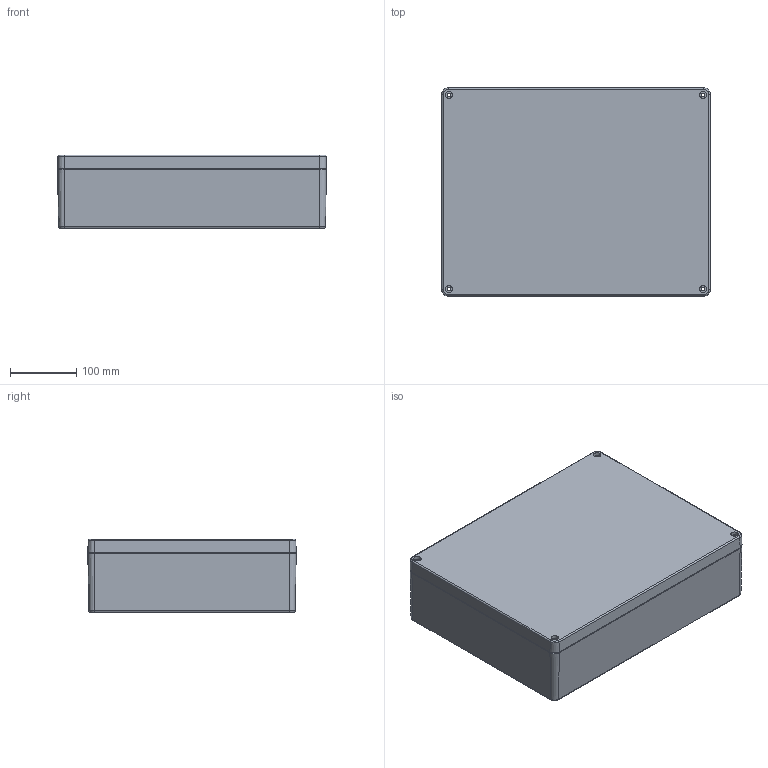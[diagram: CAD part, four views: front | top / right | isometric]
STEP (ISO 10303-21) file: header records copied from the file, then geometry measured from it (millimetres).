
FILE_DESCRIPTION (( 'STEP AP203' ), '1' );
FILE_NAME ('ALU ASSY 400310110.STEP', '2024-08-27T11:06:36', ( '' ), ( '' ), 'SwSTEP 2.0', 'SolidWorks 2018', '' );
FILE_SCHEMA (( 'CONFIG_CONTROL_DESIGN' ));
Length unit declared in the file: millimetre
Products named in the file (3): ALU LID 400310110; ALU BASE 400310110; ALU ASSY 400310110
Assembly tree (2 placements, depth 2):
  ALU ASSY 400310110
    ALU BASE 400310110
    ALU LID 400310110
Bounding box: 404.61 x 313.61 x 111 mm (x, y, z)
Volume: 2096070.3 mm3; surface area: 830071.9 mm2
Topology: 2 solids, 2 shells, 1068 faces, 2695 edges, 1730 vertices
Faces by surface type: plane 449, bspline 221, cone 175, cylinder 172, torus 51
Entity records: 46351 total; most frequent: CARTESIAN_POINT 21485, ORIENTED_EDGE 5370, DIRECTION 4540, EDGE_CURVE 2685, VERTEX_POINT 1730, LINE 1546, VECTOR 1546, AXIS2_PLACEMENT_3D 1497
